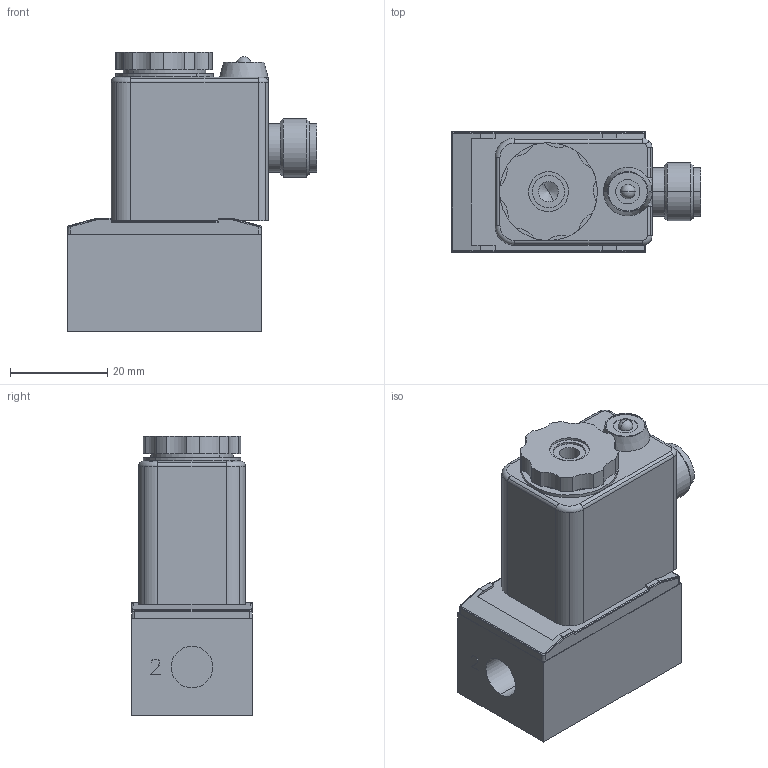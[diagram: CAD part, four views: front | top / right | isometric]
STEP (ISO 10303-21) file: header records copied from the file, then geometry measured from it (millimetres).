
FILE_DESCRIPTION (( 'STEP AP214' ), '1' );
FILE_NAME ('MSO-18-310-HN-O12_Airtec.step', '2018-12-14T07:36:30', ( '' ), ( '' ), 'SwSTEP 2.0', 'SolidWorks 2010', '' );
FILE_SCHEMA (( 'AUTOMOTIVE_DESIGN' ));
Length unit declared in the file: millimetre
Products named in the file (3): Volumenkörper4; Volumenkörper1; MSO-18-310-HN-O12_Airtec
Assembly tree (2 placements, depth 2):
  MSO-18-310-HN-O12_Airtec
    Volumenkörper4
    Volumenkörper1
Bounding box: 51.3 x 25 x 57.45 mm (x, y, z)
Volume: 42330.4 mm3; surface area: 15265.7 mm2
Topology: 2 solids, 2 shells, 429 faces, 1066 edges, 686 vertices
Faces by surface type: plane 187, cylinder 175, cone 25, bspline 19, torus 17, sphere 6
Entity records: 15765 total; most frequent: CARTESIAN_POINT 3172, DIRECTION 2170, ORIENTED_EDGE 2112, EDGE_CURVE 1056, AXIS2_PLACEMENT_3D 800, VERTEX_POINT 684, VECTOR 570, LINE 570
